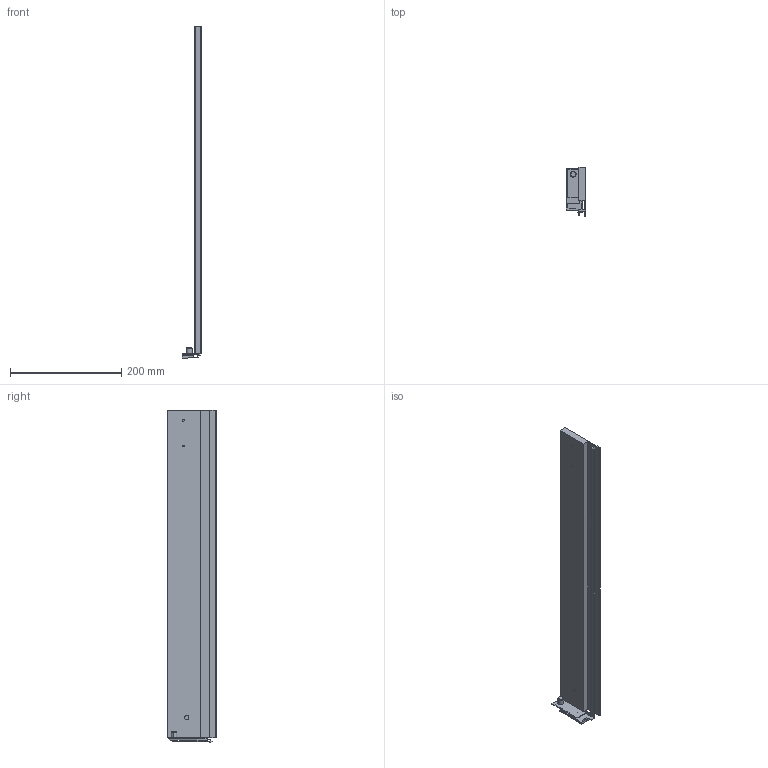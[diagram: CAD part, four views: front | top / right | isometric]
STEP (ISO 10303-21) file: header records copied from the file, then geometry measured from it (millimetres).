
FILE_DESCRIPTION (( 'STEP AP214' ), '1' );
FILE_NAME ('Vionaro_Alu-Zarge_H89_NL600_RE.STEP', '2014-08-18T10:08:55', ( '' ), ( '' ), 'SwSTEP 2.0', 'SolidWorks 2013', '' );
FILE_SCHEMA (( 'AUTOMOTIVE_DESIGN' ));
Length unit declared in the file: millimetre
Products named in the file (1): Vionaro_Alu-Zarge_H89_NL600_RE
Bounding box: 35.6 x 89 x 597.9 mm (x, y, z)
Volume: 534275 mm3; surface area: 151776.2 mm2
Topology: 1 solids, 1 shells, 101 faces, 272 edges, 178 vertices
Faces by surface type: plane 81, cylinder 16, cone 4
Entity records: 3162 total; most frequent: CARTESIAN_POINT 558, ORIENTED_EDGE 544, DIRECTION 512, EDGE_CURVE 272, VECTOR 232, LINE 232, VERTEX_POINT 178, AXIS2_PLACEMENT_3D 140
